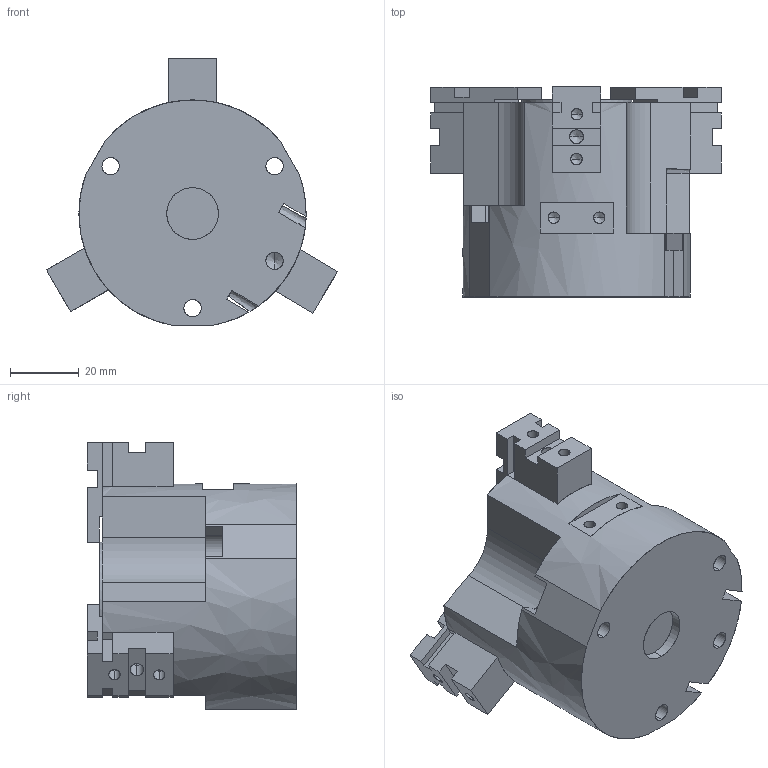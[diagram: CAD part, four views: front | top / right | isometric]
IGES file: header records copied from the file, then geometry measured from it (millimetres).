
Start section: SolidWorks IGES file using analytic representation for surfaces
Global section: file name: D:\Documents de SGA\Pieces 2D et 3D\OPE\OPE 65-3\OPE 65-3 ouvert.IGS; native system: SolidWorks 2010; preprocessor: SolidWorks 2010; author: SGA; date: 110929.100729; units: millimetre
Bounding box: 84.48 x 61 x 77.5 mm (x, y, z)
Surface area: 37501.9 mm2 (no closed solid volume)
Topology: 0 solids, 0 shells, 596 faces, 6678 edges, 6632 vertices
Faces by surface type: bspline 479, revolution 117
